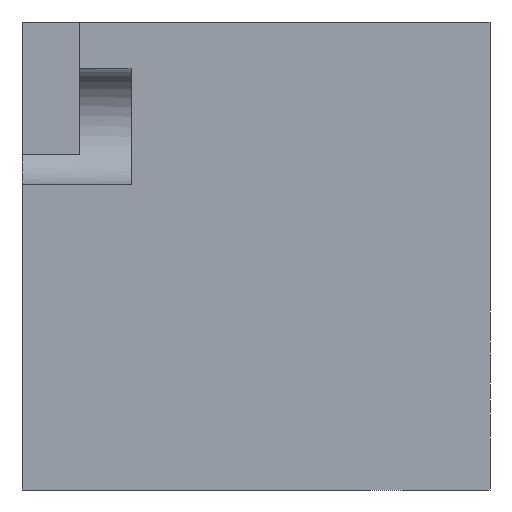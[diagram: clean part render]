
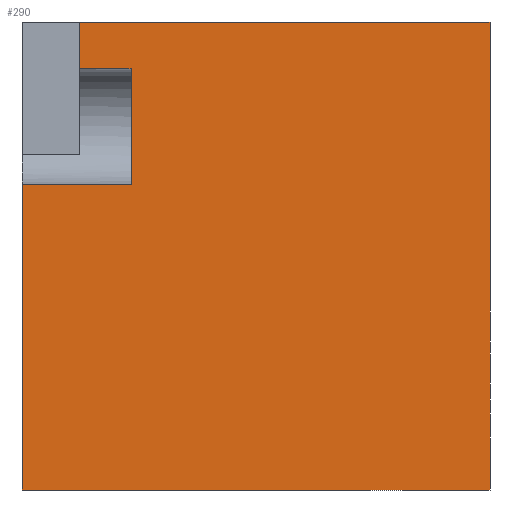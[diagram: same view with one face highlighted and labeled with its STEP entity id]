
A CAD part, front view. The second image highlights one B-rep face of the part: STEP entity #290.
In plain terms, the highlighted planar face has unit normal (0, -1, 0).
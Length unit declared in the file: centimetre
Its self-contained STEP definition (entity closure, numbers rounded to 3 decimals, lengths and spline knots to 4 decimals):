
#4 = VECTOR ( 'NONE', #678, 100. ) ;
#19 = ORIENTED_EDGE ( 'NONE', *, *, #402, .F. ) ;
#24 = CARTESIAN_POINT ( 'NONE',  ( 0., 0., 1000. ) ) ;
#25 = DIRECTION ( 'NONE',  ( 0., 1., 0. ) ) ;
#34 = CARTESIAN_POINT ( 'NONE',  ( 0., 0., 652.1984 ) ) ;
#42 = VERTEX_POINT ( 'NONE', #306 ) ;
#54 = VECTOR ( 'NONE', #961, 100. ) ;
#68 = ORIENTED_EDGE ( 'NONE', *, *, #622, .T. ) ;
#85 = VECTOR ( 'NONE', #147, 100. ) ;
#87 = VECTOR ( 'NONE', #277, 100. ) ;
#91 = VERTEX_POINT ( 'NONE', #329 ) ;
#100 = VERTEX_POINT ( 'NONE', #704 ) ;
#120 = VERTEX_POINT ( 'NONE', #858 ) ;
#147 = DIRECTION ( 'NONE',  ( 0., 0., -1. ) ) ;
#154 = DIRECTION ( 'NONE',  ( -1., 0., 0. ) ) ;
#193 = VECTOR ( 'NONE', #442, 100. ) ;
#205 = FACE_OUTER_BOUND ( 'NONE', #993, .T. ) ;
#210 = ORIENTED_EDGE ( 'NONE', *, *, #299, .T. ) ;
#224 = CARTESIAN_POINT ( 'NONE',  ( 232.9162, 0., 1000. ) ) ;
#228 = EDGE_CURVE ( 'NONE', #687, #840, #347, .T. ) ;
#246 = ORIENTED_EDGE ( 'NONE', *, *, #713, .F. ) ;
#277 = DIRECTION ( 'NONE',  ( 1., 0., 0. ) ) ;
#290 = ADVANCED_FACE ( 'NONE', ( #205 ), #657, .F. ) ;
#299 = EDGE_CURVE ( 'NONE', #840, #42, #962, .T. ) ;
#306 = CARTESIAN_POINT ( 'NONE',  ( 1000., 0., 0. ) ) ;
#313 = CARTESIAN_POINT ( 'NONE',  ( 232.9162, 0., 652.1984 ) ) ;
#329 = CARTESIAN_POINT ( 'NONE',  ( 123.6255, 0., 1000. ) ) ;
#338 = LINE ( 'NONE', #722, #54 ) ;
#347 = LINE ( 'NONE', #577, #493 ) ;
#356 = CARTESIAN_POINT ( 'NONE',  ( 0., 0., 0. ) ) ;
#365 = LINE ( 'NONE', #382, #193 ) ;
#382 = CARTESIAN_POINT ( 'NONE',  ( 232.9162, 0., 900.3601 ) ) ;
#402 = EDGE_CURVE ( 'NONE', #895, #91, #995, .T. ) ;
#425 = ORIENTED_EDGE ( 'NONE', *, *, #509, .F. ) ;
#442 = DIRECTION ( 'NONE',  ( -1., 0., 0. ) ) ;
#454 = AXIS2_PLACEMENT_3D ( 'NONE', #733, #25, #885 ) ;
#481 = EDGE_CURVE ( 'NONE', #659, #120, #604, .T. ) ;
#493 = VECTOR ( 'NONE', #881, 100. ) ;
#509 = EDGE_CURVE ( 'NONE', #659, #895, #365, .T. ) ;
#521 = CARTESIAN_POINT ( 'NONE',  ( 123.6255, 0., 716.8026 ) ) ;
#568 = LINE ( 'NONE', #24, #732 ) ;
#577 = CARTESIAN_POINT ( 'NONE',  ( 0., 0., 1000. ) ) ;
#581 = CARTESIAN_POINT ( 'NONE',  ( 0., 0., 0. ) ) ;
#604 = LINE ( 'NONE', #224, #85 ) ;
#613 = LINE ( 'NONE', #313, #644 ) ;
#622 = EDGE_CURVE ( 'NONE', #120, #687, #613, .T. ) ;
#644 = VECTOR ( 'NONE', #154, 100. ) ;
#650 = DIRECTION ( 'NONE',  ( 1., 0., 0. ) ) ;
#657 = PLANE ( 'NONE',  #454 ) ;
#659 = VERTEX_POINT ( 'NONE', #711 ) ;
#678 = DIRECTION ( 'NONE',  ( 0., 0., 1. ) ) ;
#687 = VERTEX_POINT ( 'NONE', #34 ) ;
#704 = CARTESIAN_POINT ( 'NONE',  ( 1000., 0., 1000. ) ) ;
#711 = CARTESIAN_POINT ( 'NONE',  ( 232.9162, 0., 900.3601 ) ) ;
#713 = EDGE_CURVE ( 'NONE', #91, #100, #568, .T. ) ;
#722 = CARTESIAN_POINT ( 'NONE',  ( 1000., 0., 1000. ) ) ;
#732 = VECTOR ( 'NONE', #650, 100. ) ;
#733 = CARTESIAN_POINT ( 'NONE',  ( 0., 0., 1000. ) ) ;
#778 = ORIENTED_EDGE ( 'NONE', *, *, #481, .T. ) ;
#815 = EDGE_CURVE ( 'NONE', #100, #42, #338, .T. ) ;
#840 = VERTEX_POINT ( 'NONE', #356 ) ;
#858 = CARTESIAN_POINT ( 'NONE',  ( 232.9162, 0., 652.1984 ) ) ;
#881 = DIRECTION ( 'NONE',  ( 0., 0., -1. ) ) ;
#885 = DIRECTION ( 'NONE',  ( 0., 0., 1. ) ) ;
#895 = VERTEX_POINT ( 'NONE', #909 ) ;
#909 = CARTESIAN_POINT ( 'NONE',  ( 123.6255, 0., 900.3601 ) ) ;
#915 = ORIENTED_EDGE ( 'NONE', *, *, #815, .F. ) ;
#961 = DIRECTION ( 'NONE',  ( 0., 0., -1. ) ) ;
#962 = LINE ( 'NONE', #581, #87 ) ;
#970 = ORIENTED_EDGE ( 'NONE', *, *, #228, .T. ) ;
#993 = EDGE_LOOP ( 'NONE', ( #778, #68, #970, #210, #915, #246, #19, #425 ) ) ;
#995 = LINE ( 'NONE', #521, #4 ) ;
